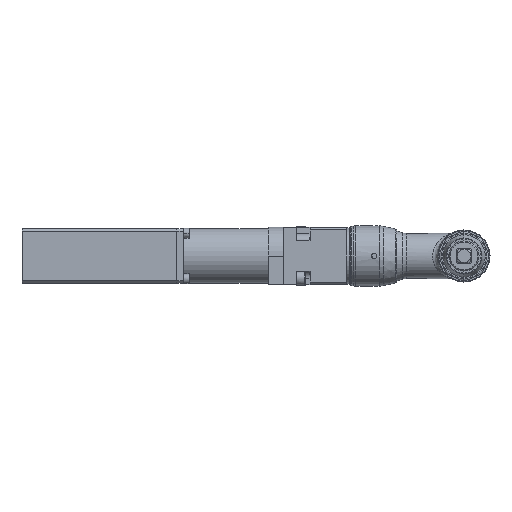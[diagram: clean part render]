
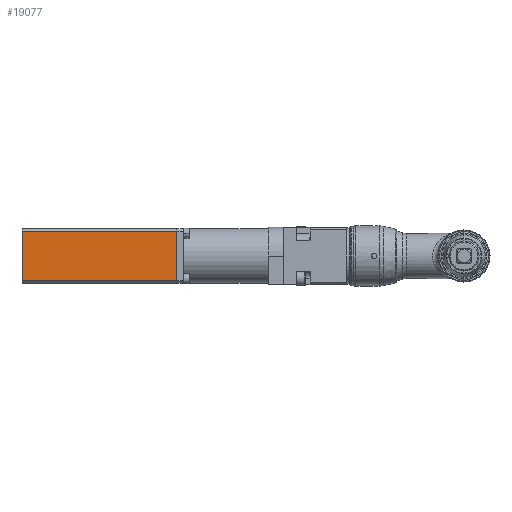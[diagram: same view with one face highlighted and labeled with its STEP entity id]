
A CAD part, front view. The second image highlights one B-rep face of the part: STEP entity #19077.
In plain terms, the highlighted planar face has unit normal (0, -1, 0).
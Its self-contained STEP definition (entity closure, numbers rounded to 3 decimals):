
#10727 = VERTEX_POINT ( 'NONE', #15104 ) ;
#13469 = CARTESIAN_POINT ( 'NONE',  ( -109., -20., 18. ) ) ;
#15104 = CARTESIAN_POINT ( 'NONE',  ( 0., -20., -18. ) ) ;
#18471 = VECTOR ( 'NONE', #81846, 1000. ) ;
#19077 = ADVANCED_FACE ( 'NONE', ( #76870 ), #84366, .T. ) ;
#19620 = ORIENTED_EDGE ( 'NONE', *, *, #63481, .F. ) ;
#20494 = LINE ( 'NONE', #42851, #18471 ) ;
#21720 = LINE ( 'NONE', #13469, #23752 ) ;
#22847 = LINE ( 'NONE', #31451, #55315 ) ;
#23752 = VECTOR ( 'NONE', #58842, 1000. ) ;
#25738 = DIRECTION ( 'NONE',  ( 0., -1., 0. ) ) ;
#31451 = CARTESIAN_POINT ( 'NONE',  ( -113., -20., -18. ) ) ;
#31645 = ORIENTED_EDGE ( 'NONE', *, *, #36951, .F. ) ;
#32272 = CARTESIAN_POINT ( 'NONE',  ( -109., -20., 20. ) ) ;
#34424 = VERTEX_POINT ( 'NONE', #49260 ) ;
#36951 = EDGE_CURVE ( 'NONE', #83430, #10727, #20494, .T. ) ;
#38303 = ORIENTED_EDGE ( 'NONE', *, *, #49667, .T. ) ;
#42851 = CARTESIAN_POINT ( 'NONE',  ( 0., -20., 20. ) ) ;
#43965 = CARTESIAN_POINT ( 'NONE',  ( -109., -20., -18. ) ) ;
#45305 = DIRECTION ( 'NONE',  ( 0., 0., -1. ) ) ;
#49001 = VERTEX_POINT ( 'NONE', #52040 ) ;
#49260 = CARTESIAN_POINT ( 'NONE',  ( -113., -20., -18. ) ) ;
#49667 = EDGE_CURVE ( 'NONE', #83430, #49001, #21720, .T. ) ;
#50788 = DIRECTION ( 'NONE',  ( 1., 0., 0. ) ) ;
#52040 = CARTESIAN_POINT ( 'NONE',  ( -113., -20., 18. ) ) ;
#55315 = VECTOR ( 'NONE', #76843, 1000. ) ;
#58842 = DIRECTION ( 'NONE',  ( -1., 0., 0. ) ) ;
#63481 = EDGE_CURVE ( 'NONE', #34424, #49001, #22847, .T. ) ;
#67919 = LINE ( 'NONE', #43965, #83367 ) ;
#71965 = CARTESIAN_POINT ( 'NONE',  ( 0., -20., 18. ) ) ;
#76843 = DIRECTION ( 'NONE',  ( 0., 0., 1. ) ) ;
#76870 = FACE_OUTER_BOUND ( 'NONE', #79691, .T. ) ;
#78032 = AXIS2_PLACEMENT_3D ( 'NONE', #32272, #25738, #45305 ) ;
#79691 = EDGE_LOOP ( 'NONE', ( #82679, #31645, #38303, #19620 ) ) ;
#81487 = EDGE_CURVE ( 'NONE', #34424, #10727, #67919, .T. ) ;
#81846 = DIRECTION ( 'NONE',  ( 0., 0., -1. ) ) ;
#82679 = ORIENTED_EDGE ( 'NONE', *, *, #81487, .T. ) ;
#83367 = VECTOR ( 'NONE', #50788, 1000. ) ;
#83430 = VERTEX_POINT ( 'NONE', #71965 ) ;
#84366 = PLANE ( 'NONE',  #78032 ) ;
